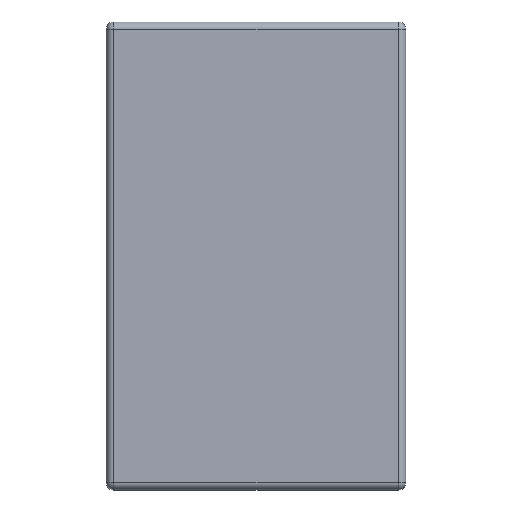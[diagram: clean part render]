
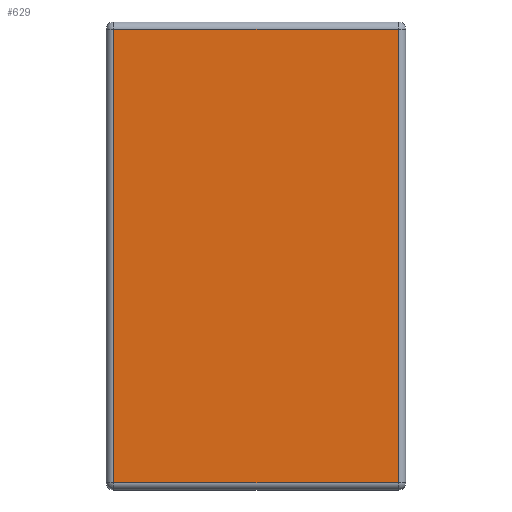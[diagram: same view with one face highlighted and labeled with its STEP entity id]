
A CAD part, front view. The second image highlights one B-rep face of the part: STEP entity #629.
In plain terms, the highlighted planar face has unit normal (0, -1, 0).
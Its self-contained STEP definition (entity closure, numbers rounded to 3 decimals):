
#42=PLANE('',#729);
#82=FACE_OUTER_BOUND('',#133,.T.);
#133=EDGE_LOOP('',(#530,#531,#532,#533));
#165=LINE('',#1060,#209);
#167=LINE('',#1068,#211);
#169=LINE('',#1078,#213);
#171=LINE('',#1087,#215);
#209=VECTOR('',#863,10.);
#211=VECTOR('',#871,10.);
#213=VECTOR('',#883,10.);
#215=VECTOR('',#895,10.);
#301=VERTEX_POINT('',#1053);
#304=VERTEX_POINT('',#1058);
#305=VERTEX_POINT('',#1062);
#308=VERTEX_POINT('',#1072);
#370=EDGE_CURVE('',#304,#301,#165,.T.);
#374=EDGE_CURVE('',#301,#305,#167,.T.);
#379=EDGE_CURVE('',#305,#308,#169,.T.);
#384=EDGE_CURVE('',#308,#304,#171,.T.);
#530=ORIENTED_EDGE('',*,*,#370,.F.);
#531=ORIENTED_EDGE('',*,*,#384,.F.);
#532=ORIENTED_EDGE('',*,*,#379,.F.);
#533=ORIENTED_EDGE('',*,*,#374,.F.);
#629=ADVANCED_FACE('',(#82),#42,.F.);
#729=AXIS2_PLACEMENT_3D('',#1110,#923,#924);
#863=DIRECTION('',(0.,0.,1.));
#871=DIRECTION('',(1.,0.,0.));
#883=DIRECTION('',(0.,0.,-1.));
#895=DIRECTION('',(-1.,0.,0.));
#923=DIRECTION('center_axis',(0.,1.,0.));
#924=DIRECTION('ref_axis',(0.,0.,1.));
#1053=CARTESIAN_POINT('',(-19.82,0.,-0.5));
#1058=CARTESIAN_POINT('',(-19.82,0.,-31.25));
#1060=CARTESIAN_POINT('',(-19.82,0.,-23.813));
#1062=CARTESIAN_POINT('',(-0.5,0.,-0.5));
#1068=CARTESIAN_POINT('',(-15.24,0.,-0.5));
#1072=CARTESIAN_POINT('',(-0.5,0.,-31.25));
#1078=CARTESIAN_POINT('',(-0.5,0.,-7.938));
#1087=CARTESIAN_POINT('',(-5.08,0.,-31.25));
#1110=CARTESIAN_POINT('Origin',(-10.16,0.,-15.875));
